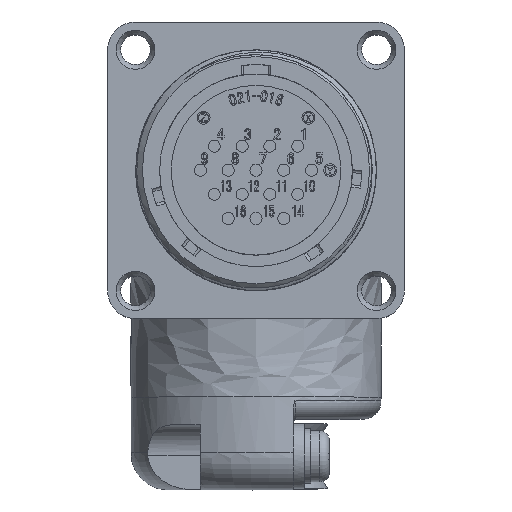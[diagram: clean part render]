
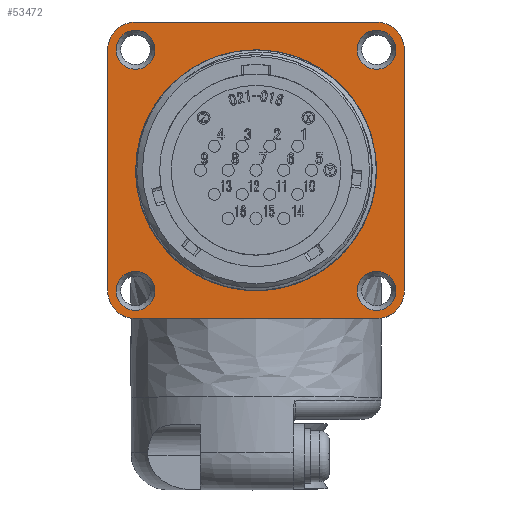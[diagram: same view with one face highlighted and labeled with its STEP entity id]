
A CAD part, top view. The second image highlights one B-rep face of the part: STEP entity #53472.
In plain terms, the highlighted planar face has unit normal (0, 0, 1).
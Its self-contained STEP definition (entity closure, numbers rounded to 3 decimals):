
#802 = DIRECTION ( 'NONE',  ( -1., 0., 0. ) ) ;
#903 = EDGE_CURVE ( 'NONE', #20259, #35296, #11683, .T. ) ;
#3163 = VERTEX_POINT ( 'NONE', #60815 ) ;
#3182 = ORIENTED_EDGE ( 'NONE', *, *, #49665, .F. ) ;
#3242 = ORIENTED_EDGE ( 'NONE', *, *, #57533, .F. ) ;
#3428 = EDGE_CURVE ( 'NONE', #70776, #70776, #12816, .T. ) ;
#4291 = CIRCLE ( 'NONE', #51525, 3. ) ;
#4571 = EDGE_CURVE ( 'NONE', #47349, #47349, #18658, .T. ) ;
#4676 = DIRECTION ( 'NONE',  ( -1., 0., 0. ) ) ;
#4821 = DIRECTION ( 'NONE',  ( 0., 0., 1. ) ) ;
#5057 = CARTESIAN_POINT ( 'NONE',  ( -13., 13., -10.5 ) ) ;
#5449 = AXIS2_PLACEMENT_3D ( 'NONE', #16570, #10280, #54295 ) ;
#5693 = EDGE_LOOP ( 'NONE', ( #29538 ) ) ;
#5816 = CARTESIAN_POINT ( 'NONE',  ( 13., 16., -10.5 ) ) ;
#7719 = FACE_BOUND ( 'NONE', #15683, .T. ) ;
#9247 = VERTEX_POINT ( 'NONE', #11009 ) ;
#9887 = ORIENTED_EDGE ( 'NONE', *, *, #20962, .F. ) ;
#10280 = DIRECTION ( 'NONE',  ( 0., 0., -1. ) ) ;
#10319 = DIRECTION ( 'NONE',  ( 1., 0., 0. ) ) ;
#10866 = CARTESIAN_POINT ( 'NONE',  ( -16., -13., -10.5 ) ) ;
#10872 = DIRECTION ( 'NONE',  ( 1., 0., 0. ) ) ;
#11009 = CARTESIAN_POINT ( 'NONE',  ( -10.9, -13., -10.5 ) ) ;
#11683 = LINE ( 'NONE', #16195, #63603 ) ;
#11693 = CIRCLE ( 'NONE', #58313, 2.1 ) ;
#12023 = FACE_BOUND ( 'NONE', #5693, .T. ) ;
#12816 = CIRCLE ( 'NONE', #5449, 12.98 ) ;
#13015 = VERTEX_POINT ( 'NONE', #67106 ) ;
#14315 = VECTOR ( 'NONE', #66316, 1000. ) ;
#14390 = EDGE_CURVE ( 'NONE', #66580, #55088, #46564, .T. ) ;
#14755 = EDGE_LOOP ( 'NONE', ( #71002 ) ) ;
#15683 = EDGE_LOOP ( 'NONE', ( #3182 ) ) ;
#16195 = CARTESIAN_POINT ( 'NONE',  ( 16., 13., -10.5 ) ) ;
#16570 = CARTESIAN_POINT ( 'NONE',  ( 0., 0., -10.5 ) ) ;
#17280 = DIRECTION ( 'NONE',  ( 0., 0., -1. ) ) ;
#17753 = DIRECTION ( 'NONE',  ( -1., 0., 0. ) ) ;
#18367 = AXIS2_PLACEMENT_3D ( 'NONE', #42427, #47754, #20186 ) ;
#18553 = CARTESIAN_POINT ( 'NONE',  ( 13., -16., -10.5 ) ) ;
#18579 = LINE ( 'NONE', #56206, #39312 ) ;
#18658 = CIRCLE ( 'NONE', #54589, 2.1 ) ;
#19386 = VERTEX_POINT ( 'NONE', #65718 ) ;
#20106 = DIRECTION ( 'NONE',  ( 1., 0., 0. ) ) ;
#20186 = DIRECTION ( 'NONE',  ( 1., 0., 0. ) ) ;
#20239 = CARTESIAN_POINT ( 'NONE',  ( 15.1, -13., -10.5 ) ) ;
#20259 = VERTEX_POINT ( 'NONE', #48770 ) ;
#20962 = EDGE_CURVE ( 'NONE', #19386, #13015, #54259, .T. ) ;
#22001 = CARTESIAN_POINT ( 'NONE',  ( -13., -16., -10.5 ) ) ;
#22033 = CARTESIAN_POINT ( 'NONE',  ( -16., 13., -10.5 ) ) ;
#23521 = CARTESIAN_POINT ( 'NONE',  ( -10.9, 13., -10.5 ) ) ;
#24018 = CARTESIAN_POINT ( 'NONE',  ( 13., -13., -10.5 ) ) ;
#25606 = EDGE_LOOP ( 'NONE', ( #39354 ) ) ;
#26457 = ORIENTED_EDGE ( 'NONE', *, *, #14390, .F. ) ;
#26653 = EDGE_LOOP ( 'NONE', ( #35170 ) ) ;
#27823 = CARTESIAN_POINT ( 'NONE',  ( 13., 13., -10.5 ) ) ;
#29365 = EDGE_CURVE ( 'NONE', #36367, #20259, #4291, .T. ) ;
#29538 = ORIENTED_EDGE ( 'NONE', *, *, #3428, .T. ) ;
#31993 = FACE_BOUND ( 'NONE', #26653, .T. ) ;
#32553 = LINE ( 'NONE', #22033, #14315 ) ;
#33609 = DIRECTION ( 'NONE',  ( 0., 0., 1. ) ) ;
#34207 = AXIS2_PLACEMENT_3D ( 'NONE', #27823, #4821, #37670 ) ;
#34216 = CARTESIAN_POINT ( 'NONE',  ( 13., 13., -10.5 ) ) ;
#35170 = ORIENTED_EDGE ( 'NONE', *, *, #39282, .F. ) ;
#35296 = VERTEX_POINT ( 'NONE', #41315 ) ;
#35412 = FACE_BOUND ( 'NONE', #25606, .T. ) ;
#36367 = VERTEX_POINT ( 'NONE', #57555 ) ;
#37180 = AXIS2_PLACEMENT_3D ( 'NONE', #41633, #58089, #20106 ) ;
#37670 = DIRECTION ( 'NONE',  ( 1., 0., 0. ) ) ;
#37879 = DIRECTION ( 'NONE',  ( 0., 0., 1. ) ) ;
#39282 = EDGE_CURVE ( 'NONE', #9247, #9247, #11693, .T. ) ;
#39312 = VECTOR ( 'NONE', #17753, 1000. ) ;
#39354 = ORIENTED_EDGE ( 'NONE', *, *, #58501, .F. ) ;
#40007 = ORIENTED_EDGE ( 'NONE', *, *, #63174, .F. ) ;
#41162 = VERTEX_POINT ( 'NONE', #23521 ) ;
#41315 = CARTESIAN_POINT ( 'NONE',  ( 16., -13., -10.5 ) ) ;
#41633 = CARTESIAN_POINT ( 'NONE',  ( -13., -13., -10.5 ) ) ;
#42243 = ORIENTED_EDGE ( 'NONE', *, *, #29365, .F. ) ;
#42427 = CARTESIAN_POINT ( 'NONE',  ( -13., 13., -10.5 ) ) ;
#43364 = DIRECTION ( 'NONE',  ( 0., 0., -1. ) ) ;
#44251 = VERTEX_POINT ( 'NONE', #18553 ) ;
#45022 = AXIS2_PLACEMENT_3D ( 'NONE', #66769, #33609, #60189 ) ;
#46018 = DIRECTION ( 'NONE',  ( 0., 0., 1. ) ) ;
#46564 = CIRCLE ( 'NONE', #37180, 3. ) ;
#47349 = VERTEX_POINT ( 'NONE', #20239 ) ;
#47497 = FACE_BOUND ( 'NONE', #14755, .T. ) ;
#47754 = DIRECTION ( 'NONE',  ( 0., 0., -1. ) ) ;
#48770 = CARTESIAN_POINT ( 'NONE',  ( 16., 13., -10.5 ) ) ;
#49665 = EDGE_CURVE ( 'NONE', #3163, #3163, #52885, .T. ) ;
#51525 = AXIS2_PLACEMENT_3D ( 'NONE', #34216, #17280, #802 ) ;
#51580 = EDGE_CURVE ( 'NONE', #35296, #44251, #63316, .T. ) ;
#52885 = CIRCLE ( 'NONE', #34207, 2.1 ) ;
#53472 = ADVANCED_FACE ( 'NONE', ( #55333, #31993, #47497, #7719, #35412, #12023 ), #61138, .T. ) ;
#54147 = DIRECTION ( 'NONE',  ( 0., -1., 0. ) ) ;
#54259 = CIRCLE ( 'NONE', #18367, 3. ) ;
#54295 = DIRECTION ( 'NONE',  ( 1., 0., 0. ) ) ;
#54589 = AXIS2_PLACEMENT_3D ( 'NONE', #24018, #46018, #62676 ) ;
#55088 = VERTEX_POINT ( 'NONE', #10866 ) ;
#55333 = FACE_OUTER_BOUND ( 'NONE', #58963, .T. ) ;
#55567 = AXIS2_PLACEMENT_3D ( 'NONE', #70717, #43364, #4676 ) ;
#56206 = CARTESIAN_POINT ( 'NONE',  ( 13., -16., -10.5 ) ) ;
#56967 = ORIENTED_EDGE ( 'NONE', *, *, #903, .F. ) ;
#57533 = EDGE_CURVE ( 'NONE', #55088, #19386, #32553, .T. ) ;
#57555 = CARTESIAN_POINT ( 'NONE',  ( 13., 16., -10.5 ) ) ;
#57556 = EDGE_CURVE ( 'NONE', #13015, #36367, #69746, .T. ) ;
#57571 = VECTOR ( 'NONE', #10872, 1000. ) ;
#58089 = DIRECTION ( 'NONE',  ( 0., 0., -1. ) ) ;
#58313 = AXIS2_PLACEMENT_3D ( 'NONE', #70591, #37879, #10319 ) ;
#58501 = EDGE_CURVE ( 'NONE', #41162, #41162, #66050, .T. ) ;
#58963 = EDGE_LOOP ( 'NONE', ( #26457, #40007, #59104, #56967, #42243, #68818, #9887, #3242 ) ) ;
#59104 = ORIENTED_EDGE ( 'NONE', *, *, #51580, .F. ) ;
#59870 = CARTESIAN_POINT ( 'NONE',  ( 12.98, 0., -10.5 ) ) ;
#60189 = DIRECTION ( 'NONE',  ( 1., 0., 0. ) ) ;
#60815 = CARTESIAN_POINT ( 'NONE',  ( 15.1, 13., -10.5 ) ) ;
#60881 = DIRECTION ( 'NONE',  ( 0., 0., 1. ) ) ;
#61138 = PLANE ( 'NONE',  #45022 ) ;
#62676 = DIRECTION ( 'NONE',  ( 1., 0., 0. ) ) ;
#63174 = EDGE_CURVE ( 'NONE', #44251, #66580, #18579, .T. ) ;
#63316 = CIRCLE ( 'NONE', #55567, 3. ) ;
#63603 = VECTOR ( 'NONE', #54147, 1000. ) ;
#64179 = AXIS2_PLACEMENT_3D ( 'NONE', #5057, #60881, #65545 ) ;
#65545 = DIRECTION ( 'NONE',  ( 1., 0., 0. ) ) ;
#65718 = CARTESIAN_POINT ( 'NONE',  ( -16., 13., -10.5 ) ) ;
#66050 = CIRCLE ( 'NONE', #64179, 2.1 ) ;
#66316 = DIRECTION ( 'NONE',  ( 0., 1., 0. ) ) ;
#66580 = VERTEX_POINT ( 'NONE', #22001 ) ;
#66769 = CARTESIAN_POINT ( 'NONE',  ( -13., -13., -10.5 ) ) ;
#67106 = CARTESIAN_POINT ( 'NONE',  ( -13., 16., -10.5 ) ) ;
#68818 = ORIENTED_EDGE ( 'NONE', *, *, #57556, .F. ) ;
#69746 = LINE ( 'NONE', #5816, #57571 ) ;
#70591 = CARTESIAN_POINT ( 'NONE',  ( -13., -13., -10.5 ) ) ;
#70717 = CARTESIAN_POINT ( 'NONE',  ( 13., -13., -10.5 ) ) ;
#70776 = VERTEX_POINT ( 'NONE', #59870 ) ;
#71002 = ORIENTED_EDGE ( 'NONE', *, *, #4571, .F. ) ;
